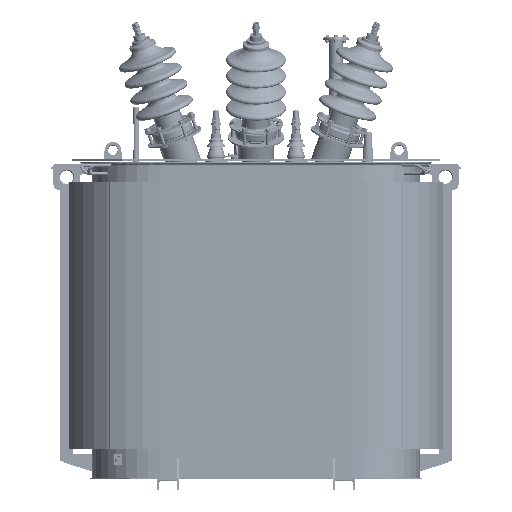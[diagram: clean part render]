
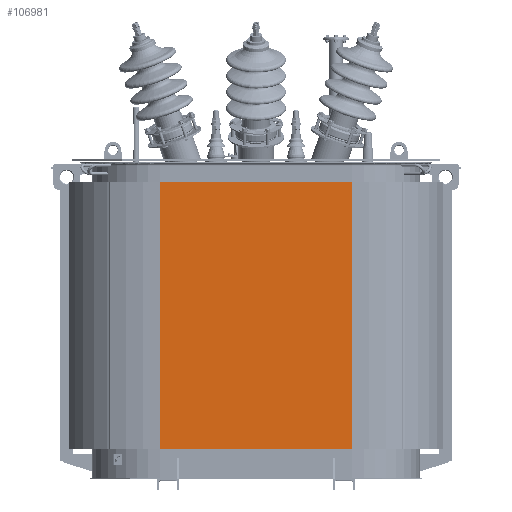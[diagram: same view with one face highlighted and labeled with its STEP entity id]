
A CAD part, top view. The second image highlights one B-rep face of the part: STEP entity #106981.
In plain terms, the highlighted planar face has unit normal (0, 0, -1).
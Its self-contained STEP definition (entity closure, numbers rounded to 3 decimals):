
#11901=LINE('',#190843,#19319);
#11902=LINE('',#190847,#19320);
#11903=LINE('',#190849,#19321);
#11904=LINE('',#190850,#19322);
#19319=VECTOR('',#140721,100.);
#19320=VECTOR('',#140726,72.);
#19321=VECTOR('',#140727,100.);
#19322=VECTOR('',#140728,72.);
#25035=FACE_OUTER_BOUND('',#36872,.T.);
#36872=EDGE_LOOP('',(#91909,#91910,#91911,#91912));
#50011=VERTEX_POINT('',#190840);
#50012=VERTEX_POINT('',#190842);
#50013=VERTEX_POINT('',#190846);
#50014=VERTEX_POINT('',#190848);
#63879=EDGE_CURVE('',#50011,#50012,#11901,.T.);
#63881=EDGE_CURVE('',#50013,#50011,#11902,.T.);
#63882=EDGE_CURVE('',#50013,#50014,#11903,.T.);
#63883=EDGE_CURVE('',#50014,#50012,#11904,.T.);
#91909=ORIENTED_EDGE('',*,*,#63881,.F.);
#91910=ORIENTED_EDGE('',*,*,#63882,.T.);
#91911=ORIENTED_EDGE('',*,*,#63883,.T.);
#91912=ORIENTED_EDGE('',*,*,#63879,.F.);
#95156=PLANE('',#115785);
#106981=ADVANCED_FACE('',(#25035),#95156,.F.);
#115785=AXIS2_PLACEMENT_3D('',#190845,#140724,#140725);
#140721=DIRECTION('',(0.,-1.,0.));
#140724=DIRECTION('center_axis',(0.,0.,
1.));
#140725=DIRECTION('ref_axis',(-1.,0.,0.));
#140726=DIRECTION('',(-1.,0.,0.));
#140727=DIRECTION('',(0.,-1.,0.));
#140728=DIRECTION('',(-1.,0.,0.));
#190840=CARTESIAN_POINT('',(-36.,111.,47.9));
#190842=CARTESIAN_POINT('',(-36.,11.,47.9));
#190843=CARTESIAN_POINT('',(-36.,111.,47.9));
#190845=CARTESIAN_POINT('Origin',(36.,111.,47.9));
#190846=CARTESIAN_POINT('',(36.,111.,47.9));
#190847=CARTESIAN_POINT('',(36.,111.,47.9));
#190848=CARTESIAN_POINT('',(36.,11.,47.9));
#190849=CARTESIAN_POINT('',(36.,111.,47.9));
#190850=CARTESIAN_POINT('',(36.,11.,47.9));
